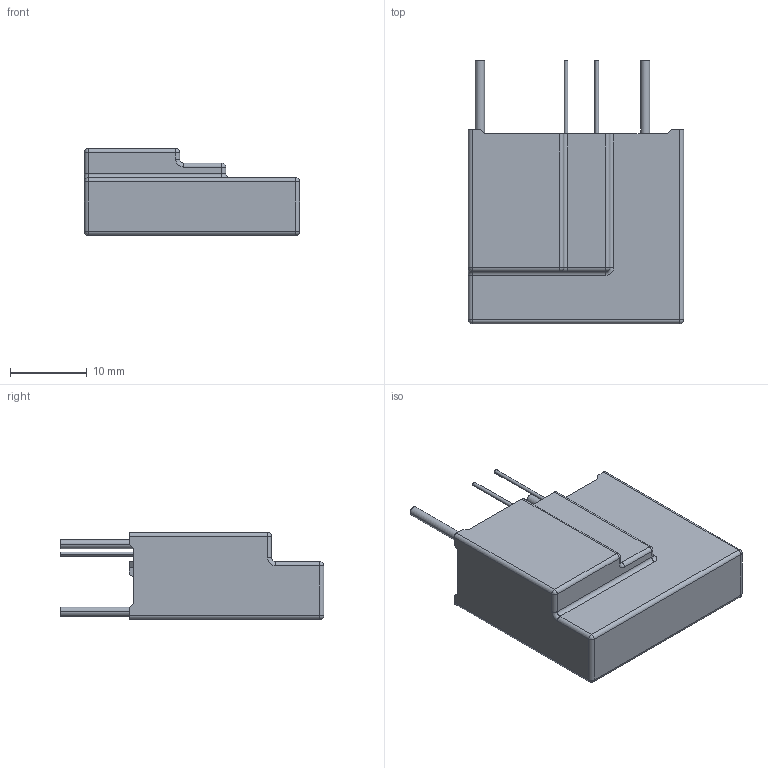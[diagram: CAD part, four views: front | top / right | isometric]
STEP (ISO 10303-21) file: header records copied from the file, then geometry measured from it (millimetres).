
FILE_DESCRIPTION((''),'2;1');
FILE_NAME('25S5401-IT-20200620','2020-06-20T',('set'),(''),'PRO/ENGINEER BY PARAMETRIC TECHNOLOGY CORPORATION, 2012310','PRO/ENGINEER BY PARAMETRIC TECHNOLOGY CORPORATION, 2012310','');
FILE_SCHEMA(('CONFIG_CONTROL_DESIGN','SHAPE_APPEARANCE_LAYERS_GROUPS'));
Length unit declared in the file: millimetre
Products named in the file (1): 25S5401-IT-20200620
Bounding box: 28 x 34.3 x 11.3 mm (x, y, z)
Volume: 1896.6 mm3; surface area: 4599.7 mm2
Topology: 1 solids, 2 shells, 119 faces, 306 edges, 195 vertices
Faces by surface type: plane 80, cylinder 29, sphere 7, torus 3
Entity records: 3614 total; most frequent: CARTESIAN_POINT 620, ORIENTED_EDGE 612, DIRECTION 605, EDGE_CURVE 306, VECTOR 245, LINE 245, VERTEX_POINT 195, AXIS2_PLACEMENT_3D 180
